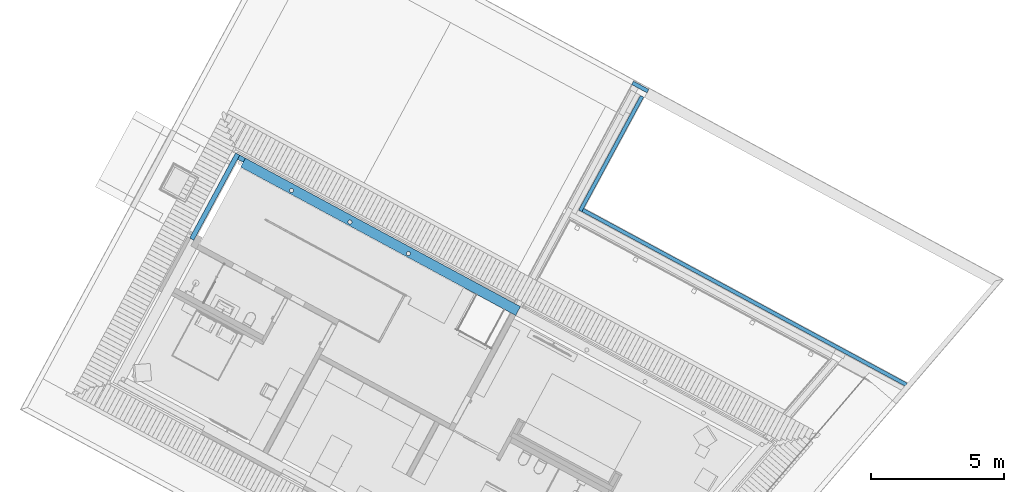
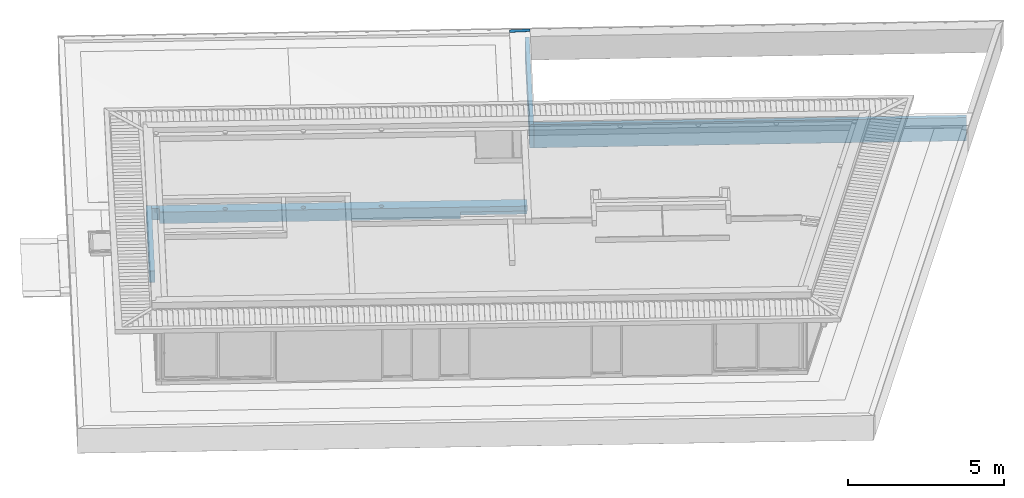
# One storey, part 12 of 48: 6 walls.
"""IFC2X3 building model written with IfcOpenShell, lengths in metres."""

from ifc_helpers import new_model, entity, si_unit, converted_unit, derived_unit, money_unit, direction, frame, origin_with_axes, place, context, subcontext, project, spatial, faceted_brep, material, material_list, type_object, element, save


model = new_model("IFC2X3")

# Units and contexts
model_context = context("Model", 3, precision=1e-05, world=origin_with_axes(), true_north=direction((0.0, 1.0)))
body_context = subcontext(model_context, "Body", "Model", "MODEL_VIEW")
ifc_project = project(units=[si_unit("LENGTHUNIT", "METRE"), si_unit("AREAUNIT", "SQUARE_METRE"), si_unit("VOLUMEUNIT", "CUBIC_METRE"), converted_unit("PLANEANGLEUNIT", "DEGREE", entity("IfcPlaneAngleMeasure", 0.0174532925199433), si_unit("PLANEANGLEUNIT", "RADIAN"), dimensions=[0, 0, 0, 0, 0, 0, 0]), money_unit("EUR"), converted_unit("TIMEUNIT", "Year", entity("IfcTimeMeasure", 31556926.0), si_unit("TIMEUNIT", "SECOND"), dimensions=[0, 0, 1, 0, 0, 0, 0]), si_unit("MASSUNIT", "GRAM", prefix="KILO"), si_unit("THERMODYNAMICTEMPERATUREUNIT", "DEGREE_CELSIUS"), si_unit("LUMINOUSINTENSITYUNIT", "LUMEN"), si_unit("ENERGYUNIT", "JOULE", prefix="MEGA"), derived_unit("THERMALCONDUCTANCEUNIT", [(si_unit("POWERUNIT", "WATT"), 1), (si_unit("LENGTHUNIT", "METRE"), -1), (si_unit("THERMODYNAMICTEMPERATUREUNIT", "KELVIN"), -1)]), derived_unit("SPECIFICHEATCAPACITYUNIT", [(si_unit("ENERGYUNIT", "JOULE"), 1), (si_unit("MASSUNIT", "GRAM", prefix="KILO"), -1), (si_unit("THERMODYNAMICTEMPERATUREUNIT", "KELVIN"), -1)]), derived_unit("MASSDENSITYUNIT", [(si_unit("MASSUNIT", "GRAM", prefix="KILO"), 1), (si_unit("VOLUMEUNIT", "CUBIC_METRE"), -1)])], contexts=[model_context])

# Site, building, storey
site_placement = place(None, frame((-3.949935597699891, 1.740105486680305, 0.0), z_axis=(0.0, 0.0, 1.0), x_axis=(0.8799804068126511, -0.475009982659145, 0.0)))
site = spatial("IfcSite", under=ifc_project, at=site_placement, Name="Gelände", CompositionType="ELEMENT")
building_placement = place(site_placement, origin_with_axes())
building = spatial("IfcBuilding", under=site, at=building_placement, Name="Gebäude", CompositionType="ELEMENT")
storey_placement = place(building_placement, frame((0.0, 0.0, 4.55), z_axis=(0.0, 0.0, 1.0), x_axis=(1.0, 0.0, 0.0)))
storey = spatial("IfcBuildingStorey", under=building, at=storey_placement, Name="Staffelgeschoss", CompositionType="ELEMENT", Elevation=4.55)

# Walls
ifc_material_1 = material(Name="_SIWH - Beton, Stahlbeton")
ifc_material_2 = material(Name="_SIWH - Dämmung, weich Mineralwolle")
ifc_material_list = material_list([ifc_material_1, ifc_material_2])
wall_type_1 = type_object("IfcWallType", Name="_SIWH - WA | Stb. 20+WD 18 | 38cm 380", PredefinedType="NOTDEFINED")
wall_1_placement = place(storey_placement, frame((17.36749037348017, 10.85780061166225, -0.4500000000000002), z_axis=(0.0, 0.0, 1.0), x_axis=(-1.0, 0.0, 0.0)))
element("IfcWall", 1, at=wall_1_placement, inside=storey, type_object=wall_type_1, material=ifc_material_list, Name="A-Wand051", context=body_context, shape_type="Brep", body=[
    faceted_brep([(9.60066716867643, 0.02533533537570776, 0.4500000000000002), (9.589872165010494, 0.04652172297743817, 0.4500000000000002), (9.586152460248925, 0.07000701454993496, 0.4500000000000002), (9.589872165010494, 0.09349230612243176, 0.4500000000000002), (9.60066716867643, 0.1146786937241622, 0.4500000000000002), (9.617480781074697, 0.1314923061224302, 0.4500000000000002), (9.638667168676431, 0.142287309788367, 0.4500000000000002), (9.662152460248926, 0.1460070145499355, 0.4500000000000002), (9.685637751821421, 0.142287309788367, 0.4500000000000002), (9.706824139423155, 0.1314923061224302, 0.4500000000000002), (9.723637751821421, 0.1146786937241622, 0.4500000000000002), (9.734432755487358, 0.09349230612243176, 0.4500000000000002), (9.738152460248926, 0.07000701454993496, 0.4500000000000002), (9.734432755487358, 0.04652172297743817, 0.4500000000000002), (9.723637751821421, 0.02533533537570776, 0.4500000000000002), (9.706824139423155, 0.008521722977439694, 0.4500000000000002), (9.690099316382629, 0.0, 0.4500000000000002), (11.77000893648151, 0.0, 0.4500000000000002), (11.77000893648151, 0.1999999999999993, 0.4500000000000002), (0.0, 0.1999999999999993, 0.4500000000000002), (0.0, 0.0, 0.4500000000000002), (4.634763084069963, 0.0, 0.4500000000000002), (4.618038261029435, 0.008521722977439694, 0.4500000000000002), (4.601224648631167, 0.02533533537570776, 0.4500000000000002), (4.59042964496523, 0.04652172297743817, 0.4500000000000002), (4.586709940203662, 0.07000701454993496, 0.4500000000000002), (4.59042964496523, 0.09349230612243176, 0.4500000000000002), (4.601224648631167, 0.1146786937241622, 0.4500000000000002), (4.618038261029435, 0.1314923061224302, 0.4500000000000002), (4.639224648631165, 0.142287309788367, 0.4500000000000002), (4.662709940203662, 0.1460070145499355, 0.4500000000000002), (4.686195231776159, 0.142287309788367, 0.4500000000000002), (4.707381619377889, 0.1314923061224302, 0.4500000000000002), (4.724195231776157, 0.1146786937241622, 0.4500000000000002), (4.734990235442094, 0.09349230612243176, 0.4500000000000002), (4.738709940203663, 0.07000701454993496, 0.4500000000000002), (4.734990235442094, 0.04652172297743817, 0.4500000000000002), (4.724195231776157, 0.02533533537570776, 0.4500000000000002), (4.707381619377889, 0.008521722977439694, 0.4500000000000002), (4.690656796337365, 0.0, 0.4500000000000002), (7.134205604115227, 0.0, 0.4500000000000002), (7.117480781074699, 0.008521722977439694, 0.4500000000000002), (7.100667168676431, 0.02533533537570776, 0.4500000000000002), (7.089872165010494, 0.04652172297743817, 0.4500000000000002), (7.086152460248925, 0.07000701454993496, 0.4500000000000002), (7.089872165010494, 0.09349230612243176, 0.4500000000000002), (7.100667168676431, 0.1146786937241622, 0.4500000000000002), (7.117480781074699, 0.1314923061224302, 0.4500000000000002), (7.138667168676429, 0.142287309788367, 0.4500000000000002), (7.162152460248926, 0.1460070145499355, 0.4500000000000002), (7.185637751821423, 0.142287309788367, 0.4500000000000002), (7.206824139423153, 0.1314923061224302, 0.4500000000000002), (7.223637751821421, 0.1146786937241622, 0.4500000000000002), (7.234432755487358, 0.09349230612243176, 0.4500000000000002), (7.238152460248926, 0.07000701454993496, 0.4500000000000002), (7.234432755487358, 0.04652172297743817, 0.4500000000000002), (7.223637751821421, 0.02533533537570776, 0.4500000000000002), (7.206824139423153, 0.008521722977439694, 0.4500000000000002), (7.190099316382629, 0.0, 0.4500000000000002), (9.634205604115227, 0.0, 0.4500000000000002), (9.617480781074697, 0.008521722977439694, 0.4500000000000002), (9.60066716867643, 0.02533533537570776, 0.3000000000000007), (9.589872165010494, 0.04652172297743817, 0.3000000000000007), (9.586152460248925, 0.07000701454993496, 0.3000000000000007), (9.589872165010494, 0.09349230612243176, 0.3000000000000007), (9.60066716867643, 0.1146786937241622, 0.3000000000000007), (9.617480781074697, 0.1314923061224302, 0.3000000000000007), (9.638667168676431, 0.142287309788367, 0.3000000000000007), (9.662152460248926, 0.1460070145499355, 0.3000000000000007), (9.685637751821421, 0.142287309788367, 0.3000000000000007), (9.706824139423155, 0.1314923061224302, 0.3000000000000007), (9.723637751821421, 0.1146786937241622, 0.3000000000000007), (9.734432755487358, 0.09349230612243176, 0.3000000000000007), (9.738152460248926, 0.07000701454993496, 0.3000000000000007), (9.734432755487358, 0.04652172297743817, 0.3000000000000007), (9.723637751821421, 0.02533533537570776, 0.3000000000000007), (9.706824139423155, 0.008521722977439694, 0.3000000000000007), (9.690098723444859, -3.02116882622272e-07, 0.3000000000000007), (9.634206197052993, -3.02116882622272e-07, 0.3000000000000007), (7.19009872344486, -3.02116882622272e-07, 0.3000000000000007), (7.134206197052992, -3.02116882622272e-07, 0.3000000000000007), (4.690656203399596, -3.02116882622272e-07, 0.3000000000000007), (4.634763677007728, -3.02116882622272e-07, 0.3000000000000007), (0.0, -2.515588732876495e-07, 0.2600000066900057), (2.132152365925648, -3.02116882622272e-07, 0.2600000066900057), (2.132152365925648, -3.02116882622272e-07, 0.0), (11.77000893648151, 0.0, 0.0), (11.77000893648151, 0.1999999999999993, 0.0), (2.132152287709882, 0.1999999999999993, 0.0), (2.132152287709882, 0.2000000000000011, 0.2600000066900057), (0.0, 0.1999999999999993, 0.2600000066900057), (4.618038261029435, 0.008521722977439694, 0.3000000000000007), (4.601224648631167, 0.02533533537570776, 0.3000000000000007), (4.59042964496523, 0.04652172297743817, 0.3000000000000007), (4.586709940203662, 0.07000701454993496, 0.3000000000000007), (4.59042964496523, 0.09349230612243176, 0.3000000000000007), (4.601224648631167, 0.1146786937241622, 0.3000000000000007), (4.618038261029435, 0.1314923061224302, 0.3000000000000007), (4.639224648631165, 0.142287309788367, 0.3000000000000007), (4.662709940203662, 0.1460070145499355, 0.3000000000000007), (4.686195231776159, 0.142287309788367, 0.3000000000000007), (4.707381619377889, 0.1314923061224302, 0.3000000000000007), (4.724195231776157, 0.1146786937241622, 0.3000000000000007), (4.734990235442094, 0.09349230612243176, 0.3000000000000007), (4.738709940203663, 0.07000701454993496, 0.3000000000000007), (4.734990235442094, 0.04652172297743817, 0.3000000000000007), (4.724195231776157, 0.02533533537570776, 0.3000000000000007), (4.707381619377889, 0.008521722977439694, 0.3000000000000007), (7.117480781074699, 0.008521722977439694, 0.3000000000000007), (7.100667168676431, 0.02533533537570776, 0.3000000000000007), (7.089872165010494, 0.04652172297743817, 0.3000000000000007), (7.086152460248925, 0.07000701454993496, 0.3000000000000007), (7.089872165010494, 0.09349230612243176, 0.3000000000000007), (7.100667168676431, 0.1146786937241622, 0.3000000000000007), (7.117480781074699, 0.1314923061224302, 0.3000000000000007), (7.138667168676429, 0.142287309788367, 0.3000000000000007), (7.162152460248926, 0.1460070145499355, 0.3000000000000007), (7.185637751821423, 0.142287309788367, 0.3000000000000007), (7.206824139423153, 0.1314923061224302, 0.3000000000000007), (7.223637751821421, 0.1146786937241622, 0.3000000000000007), (7.234432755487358, 0.09349230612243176, 0.3000000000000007), (7.238152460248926, 0.07000701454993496, 0.3000000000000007), (7.234432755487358, 0.04652172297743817, 0.3000000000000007), (7.223637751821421, 0.02533533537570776, 0.3000000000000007), (7.206824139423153, 0.008521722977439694, 0.3000000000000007), (9.617480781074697, 0.008521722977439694, 0.3000000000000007)], [[[0, 1, 2, 3, 4, 5, 6, 7, 8, 9, 10, 11, 12, 13, 14, 15, 16, 17, 18, 19, 20, 21, 22, 23, 24, 25, 26, 27, 28, 29, 30, 31, 32, 33, 34, 35, 36, 37, 38, 39, 40, 41, 42, 43, 44, 45, 46, 47, 48, 49, 50, 51, 52, 53, 54, 55, 56, 57, 58, 59, 60]], [[1, 0, 61, 62]], [[2, 1, 62, 63]], [[3, 2, 63, 64]], [[4, 3, 64, 65]], [[5, 4, 65, 66]], [[6, 5, 66, 67]], [[7, 6, 67, 68]], [[8, 7, 68, 69]], [[9, 8, 69, 70]], [[10, 9, 70, 71]], [[11, 10, 71, 72]], [[12, 11, 72, 73]], [[13, 12, 73, 74]], [[14, 13, 74, 75]], [[15, 14, 75, 76]], [[77, 16, 15, 76]], [[78, 59, 58, 79, 80, 40, 39, 81, 82, 21, 20, 83, 84, 85, 86, 17, 16, 77]], [[17, 86, 87, 18]], [[88, 89, 90, 19, 18, 87]], [[19, 90, 83, 20]], [[22, 21, 82, 91]], [[23, 22, 91, 92]], [[24, 23, 92, 93]], [[25, 24, 93, 94]], [[26, 25, 94, 95]], [[27, 26, 95, 96]], [[28, 27, 96, 97]], [[29, 28, 97, 98]], [[30, 29, 98, 99]], [[31, 30, 99, 100]], [[32, 31, 100, 101]], [[33, 32, 101, 102]], [[34, 33, 102, 103]], [[35, 34, 103, 104]], [[36, 35, 104, 105]], [[37, 36, 105, 106]], [[38, 37, 106, 107]], [[81, 39, 38, 107]], [[41, 40, 80, 108]], [[42, 41, 108, 109]], [[43, 42, 109, 110]], [[44, 43, 110, 111]], [[45, 44, 111, 112]], [[46, 45, 112, 113]], [[47, 46, 113, 114]], [[48, 47, 114, 115]], [[49, 48, 115, 116]], [[50, 49, 116, 117]], [[51, 50, 117, 118]], [[52, 51, 118, 119]], [[53, 52, 119, 120]], [[54, 53, 120, 121]], [[55, 54, 121, 122]], [[56, 55, 122, 123]], [[57, 56, 123, 124]], [[79, 58, 57, 124]], [[60, 59, 78, 125]], [[0, 60, 125, 61]], [[78, 77, 76, 75, 74, 73, 72, 71, 70, 69, 68, 67, 66, 65, 64, 63, 62, 61, 125]], [[80, 79, 124, 123, 122, 121, 120, 119, 118, 117, 116, 115, 114, 113, 112, 111, 110, 109, 108]], [[82, 81, 107, 106, 105, 104, 103, 102, 101, 100, 99, 98, 97, 96, 95, 94, 93, 92, 91]], [[89, 84, 83, 90]], [[88, 85, 84, 89]], [[86, 85, 88, 87]]]),
    faceted_brep([(9.662152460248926, -0.005992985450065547, 0.4500000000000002), (9.638667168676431, -0.002273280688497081, 0.4500000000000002), (9.634205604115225, 0.0, 0.4500000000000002), (7.190099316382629, 0.0, 0.4500000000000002), (7.185637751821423, -0.002273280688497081, 0.4500000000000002), (7.162152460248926, -0.005992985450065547, 0.4500000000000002), (7.138667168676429, -0.002273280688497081, 0.4500000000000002), (7.134205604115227, 0.0, 0.4500000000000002), (4.690656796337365, 0.0, 0.4500000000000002), (4.686195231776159, -0.002273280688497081, 0.4500000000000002), (4.662709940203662, -0.005992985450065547, 0.4500000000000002), (4.639224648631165, -0.002273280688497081, 0.4500000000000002), (4.634763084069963, 0.0, 0.4500000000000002), (0.0, 0.0, 0.4500000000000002), (0.0, -0.1799999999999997, 0.4500000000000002), (11.77000893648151, -0.1800000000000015, 0.4500000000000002), (11.77000893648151, 0.0, 0.4500000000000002), (9.690099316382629, 0.0, 0.4500000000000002), (9.685637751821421, -0.002273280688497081, 0.4500000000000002), (9.662152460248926, -0.005992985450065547, 0.3000000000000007), (9.638667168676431, -0.002273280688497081, 0.3000000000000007), (9.634205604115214, 0.0, 0.3000000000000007), (9.690099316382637, 0.0, 0.3000000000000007), (11.77000893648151, 0.0, 0.0), (2.98091465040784e-05, 0.0, 0.0), (2.98091465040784e-05, 0.0, 0.05000000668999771), (0.0, 0.0, 0.05000000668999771), (4.634763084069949, 0.0, 0.3000000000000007), (4.690656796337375, 0.0, 0.3000000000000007), (7.134205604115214, 0.0, 0.3000000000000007), (7.190099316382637, 0.0, 0.3000000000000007), (7.185637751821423, -0.002273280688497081, 0.3000000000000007), (7.162152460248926, -0.005992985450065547, 0.3000000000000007), (7.138667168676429, -0.002273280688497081, 0.3000000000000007), (4.686195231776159, -0.002273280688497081, 0.3000000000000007), (4.662709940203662, -0.005992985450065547, 0.3000000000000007), (4.639224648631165, -0.002273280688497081, 0.3000000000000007), (0.0, -0.1799999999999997, 0.05000000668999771), (2.90758975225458e-05, -0.1800000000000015, 0.05000000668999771), (2.90758975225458e-05, -0.1799999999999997, 0.0), (11.77000893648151, -0.1800000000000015, 0.0), (9.685637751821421, -0.002273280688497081, 0.3000000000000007)], [[[0, 1, 2, 3, 4, 5, 6, 7, 8, 9, 10, 11, 12, 13, 14, 15, 16, 17, 18]], [[1, 0, 19, 20]], [[21, 2, 1, 20]], [[22, 17, 16, 23, 24, 25, 26, 13, 12, 27, 28, 8, 7, 29, 30, 3, 2, 21]], [[4, 3, 30, 31]], [[5, 4, 31, 32]], [[6, 5, 32, 33]], [[29, 7, 6, 33]], [[9, 8, 28, 34]], [[10, 9, 34, 35]], [[11, 10, 35, 36]], [[27, 12, 11, 36]], [[13, 26, 37, 14]], [[37, 38, 39, 40, 15, 14]], [[15, 40, 23, 16]], [[18, 17, 22, 41]], [[0, 18, 41, 19]], [[22, 21, 20, 19, 41]], [[40, 39, 24, 23]], [[24, 39, 38, 25]], [[25, 38, 37, 26]], [[28, 27, 36, 35, 34]], [[30, 29, 33, 32, 31]]]),
])
ifc_material_3 = material(Name="_SIWH - Dämmung, weich Mineralwolle, hohe Priorität")
wall_type_2 = type_object("IfcWallType", Name="_SIWH - Dämmung, weich Mineralwolle, hohe Priorität 180", PredefinedType="NOTDEFINED")
wall_2_placement = place(storey_placement, frame((5.357481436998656, 10.85780061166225, -0.4500000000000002), z_axis=(0.0, 0.0, 1.0), x_axis=(0.0, -1.0, 0.0)))
element("IfcWall", 2, at=wall_2_placement, inside=storey, type_object=wall_type_2, material=ifc_material_3, Name="A-Wand065", context=body_context, shape_type="Brep", body=[
    faceted_brep([(-0.1800000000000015, -0.1799999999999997, 0.4500000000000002), (3.464741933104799, -0.1799999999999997, 0.4500000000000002), (3.464741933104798, 0.0, 0.4500000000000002), (-0.1800000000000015, 0.0, 0.4500000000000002), (-0.1800000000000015, -0.1799999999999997, 0.0), (3.464741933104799, -0.1799999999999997, 0.0), (3.464741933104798, 0.0, 0.0), (-0.1800000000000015, 0.0, 0.0)], [[[0, 1, 2, 3]], [[4, 5, 1, 0]], [[2, 1, 5, 6]], [[3, 2, 6, 7]], [[4, 0, 3, 7]], [[7, 6, 5, 4]]]),
])
ifc_material_4 = material(Name="_SIWH - Metall, Aluminium")
wall_type_3 = type_object("IfcWallType", Name="_SIWH - Attikablech2 Achse3 EG 660 x 65", PredefinedType="NOTDEFINED")
wall_3_placement = place(storey_placement, frame((17.36746820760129, 20.38528216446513, -0.3999999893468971), z_axis=(0.0, 0.0, 1.0), x_axis=(-4.180477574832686e-06, 0.9999999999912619, 0.0)))
element("IfcWall", 3, at=wall_3_placement, inside=storey, type_object=wall_type_3, material=ifc_material_4, Name="Wand-028", context=body_context, shape_type="Brep", body=[
    faceted_brep([(0.0, -0.3699999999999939, 0.3349999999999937), (0.1481523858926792, -0.3699999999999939, 0.3349999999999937), (0.1481523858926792, -0.3699999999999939, 0.399999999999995), (0.0, -0.3699999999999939, 0.399999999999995), (0.0, -0.367999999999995, 0.3349999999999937), (0.1481523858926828, -0.367999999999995, 0.3349999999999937), (0.1481523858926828, -0.367999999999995, 0.3979287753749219), (0.1481523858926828, 0.2880000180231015, 0.3749687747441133), (0.1481523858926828, 0.2880000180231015, 0.3349999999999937), (0.1481523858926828, 0.2900000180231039, 0.3349999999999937), (0.1481523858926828, 0.2900000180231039, 0.3768999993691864), (0.0, 0.2900000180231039, 0.3768999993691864), (0.0, 0.2900000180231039, 0.3349999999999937), (0.0, 0.2880000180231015, 0.3349999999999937), (0.0, 0.2880000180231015, 0.3749687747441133), (0.0, -0.367999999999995, 0.3979287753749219)], [[[0, 1, 2, 3]], [[4, 5, 1, 0]], [[2, 1, 5, 6, 7, 8, 9, 10]], [[3, 2, 10, 11]], [[4, 0, 3, 11, 12, 13, 14, 15]], [[15, 6, 5, 4]], [[14, 7, 6, 15]], [[13, 8, 7, 14]], [[12, 9, 8, 13]], [[11, 10, 9, 12]]]),
])
ifc_material_5 = material(Name="_SIWH - Beton, Stahlbeton Fertigteil")
wall_type_4 = type_object("IfcWallType", Name="_SIWH - Terrasse Luftbalken 140 x 915", PredefinedType="NOTDEFINED")
wall_4_placement = place(storey_placement, frame((17.36746820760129, 15.0830461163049, -0.3999999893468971), z_axis=(0.0, 0.0, 1.0), x_axis=(1.0, 0.0, 0.0)))
element("IfcWall", 4, at=wall_4_placement, inside=storey, type_object=wall_type_4, material=ifc_material_5, Name="Wand-027", context=body_context, shape_type="Brep", body=[
    faceted_brep([(14.19049326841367, 0.3400000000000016, 0.3349999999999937), (14.19049326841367, 0.3400000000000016, -0.5699999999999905), (0.3399999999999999, 0.3400000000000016, -0.5699999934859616), (0.3399999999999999, 0.3399999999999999, 0.3349999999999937), (14.19049326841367, 0.2000000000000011, 0.3349999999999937), (14.19049326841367, 0.2000000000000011, -0.5699999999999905), (14.19049326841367, 0.2100000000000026, -0.5799999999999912), (14.19049326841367, 0.3300000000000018, -0.5799999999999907), (0.3300000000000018, 0.3300000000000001, -0.5799999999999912), (0.3399999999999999, 0.2000000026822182, -0.5699999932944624), (0.3399999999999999, 0.2000000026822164, 0.3349999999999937), (0.3300000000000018, 0.2099999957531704, -0.5799999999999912)], [[[0, 1, 2, 3]], [[4, 5, 6, 7, 1, 0]], [[1, 7, 8, 2]], [[2, 9, 10, 3]], [[4, 0, 3, 10]], [[5, 4, 10, 9]], [[6, 5, 9, 11]], [[7, 6, 11, 8]], [[11, 9, 2, 8]]]),
])
wall_5_placement = place(storey_placement, frame((17.36746820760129, 20.18527610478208, -0.3999999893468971), z_axis=(0.0, 0.0, 1.0), x_axis=(0.0, -1.0, 0.0)))
element("IfcWall", 5, at=wall_5_placement, inside=storey, type_object=wall_type_4, material=ifc_material_5, Name="Wand-027", context=body_context, shape_type="Brep", body=[
    faceted_brep([(0.0, 0.3399999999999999, 0.3349999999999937), (0.0, 0.1999999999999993, 0.3349999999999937), (4.902229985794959, 0.1999999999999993, 0.3349999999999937), (4.902229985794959, 0.3399999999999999, 0.3349999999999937), (0.0, 0.1999999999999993, -0.5699999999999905), (0.0, 0.3399999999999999, -0.5699999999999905), (0.0, 0.3300000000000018, -0.5799999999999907), (0.0, 0.2100000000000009, -0.5799999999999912), (4.902229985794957, 0.1999999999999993, -0.5699999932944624), (4.902229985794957, 0.3399999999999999, -0.5699999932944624), (4.892229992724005, 0.3300000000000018, -0.5799999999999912), (4.892229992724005, 0.2100000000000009, -0.5799999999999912)], [[[0, 1, 2, 3]], [[4, 1, 0, 5, 6, 7]], [[1, 4, 8, 2]], [[2, 8, 9, 3]], [[5, 0, 3, 9]], [[6, 5, 9, 10]], [[7, 6, 10, 11]], [[4, 7, 11, 8]], [[8, 11, 10, 9]]]),
])
wall_type_5 = type_object("IfcWallType", Name="_SIWH - Dämmung, weich Mineralwolle 180", PredefinedType="NOTDEFINED")
wall_6_placement = place(storey_placement, frame((5.597481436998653, 10.85780061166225, -0.4500000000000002), z_axis=(0.0, 0.0, 1.0), x_axis=(-1.0, 0.0, 0.0)))
element("IfcWall", 6, at=wall_6_placement, inside=storey, type_object=wall_type_5, material=ifc_material_2, Name="A-Wand066", context=body_context, shape_type="Brep", body=[
    faceted_brep([(0.1234861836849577, -0.002273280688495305, 0.4500000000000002), (0.1000008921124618, -0.00599298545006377, 0.4500000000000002), (0.07651560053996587, -0.002273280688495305, 0.4500000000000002), (0.07205403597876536, 0.0, 0.4500000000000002), (0.0, 0.0, 0.4500000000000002), (0.0, -0.1799999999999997, 0.4500000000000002), (0.2399999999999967, -0.1799999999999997, 0.4500000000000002), (0.2399999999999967, 0.0, 0.4500000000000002), (0.1279477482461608, 0.0, 0.4500000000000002), (0.1000008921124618, -0.00599298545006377, 0.3000000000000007), (0.1234861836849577, -0.002273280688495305, 0.3000000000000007), (0.07651560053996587, -0.002273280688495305, 0.3000000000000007), (0.07205403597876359, 0.0, 0.3000000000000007), (0.12794774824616, 0.0, 0.3000000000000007), (0.2399999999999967, 0.0, 0.0), (0.0, 0.0, 0.0), (0.0, -0.1799999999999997, 0.0), (0.2399999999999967, -0.1799999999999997, 0.0)], [[[0, 1, 2, 3, 4, 5, 6, 7, 8]], [[9, 1, 0, 10]], [[11, 2, 1, 9]], [[11, 12, 3, 2]], [[12, 13, 8, 7, 14, 15, 4, 3]], [[15, 16, 5, 4]], [[16, 17, 6, 5]], [[14, 7, 6, 17]], [[10, 0, 8, 13]], [[10, 13, 12, 11, 9]], [[15, 14, 17, 16]]]),
])

save(model, "model.ifc")
